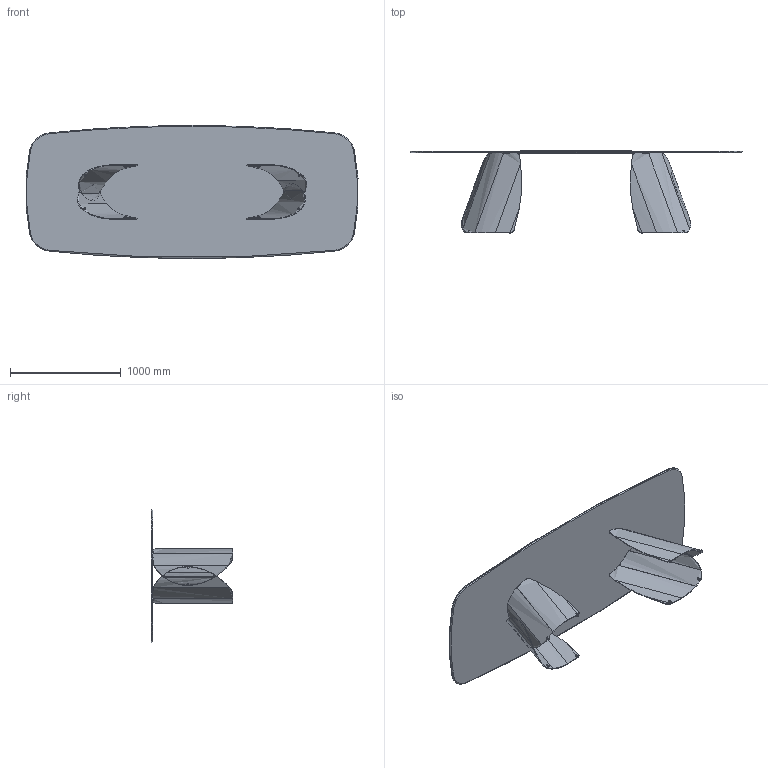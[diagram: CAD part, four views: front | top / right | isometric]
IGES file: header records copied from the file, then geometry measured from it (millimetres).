
Start section: SolidWorks IGES file using analytic representation for surfaces
Global section: file name: Y:\eforma\TECNICO\SOLIDWORKS\E-FORMA\1-TAVOLI\PERLA\02 parts\PA44C_Perla 300x120_Ceramic Shaped.IGS; native system: SolidWorks 2022; preprocessor: SolidWorks 2022; author: eforma.tech; date: 240801.145417; units: millimetre
Bounding box: 2991.72 x 737.5 x 1200 mm (x, y, z)
Volume: 63437384.2 mm3; surface area: 16910447.2 mm2
Topology: 34 solids, 34 shells, 497 faces, 1103 edges, 674 vertices
Faces by surface type: revolution 263, bspline 130, plane 104
